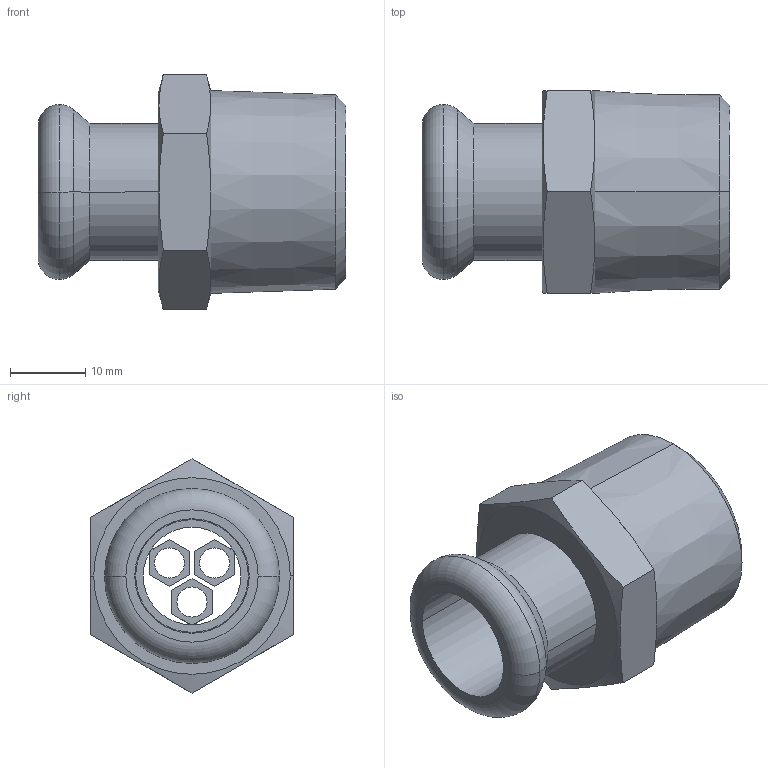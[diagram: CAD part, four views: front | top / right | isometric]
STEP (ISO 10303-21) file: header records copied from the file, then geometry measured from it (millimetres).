
FILE_DESCRIPTION(('OneSpaceDesigner STEP Export'),'2;1');
FILE_NAME('R2705 15xR3-4.stp','2010-06-09T10:27:23',(''),(''),'OneSpace Designer STEP processor for AP214 (Solid Model)','OneSpace Modeling 15.00A 14-Mar-2007 (C) CoCreate Software GmbH','');
FILE_SCHEMA(('AUTOMOTIVE_DESIGN { 1 0 10303 214 1 1 1 1 }'));
Length unit declared in the file: millimetre
Products named in the file (2): R2705_15xR3-4
Assembly tree (1 placements, depth 2):
  R2705_15xR3-4
    R2705_15xR3-4
Bounding box: 41 x 27 x 31.18 mm (x, y, z)
Volume: 9161.6 mm3; surface area: 6880.9 mm2
Topology: 1 solids, 1 shells, 83 faces, 204 edges, 131 vertices
Faces by surface type: plane 40, cylinder 21, cone 16, torus 6
Entity records: 2783 total; most frequent: CARTESIAN_POINT 971, ORIENTED_EDGE 408, DIRECTION 301, EDGE_CURVE 204, VERTEX_POINT 131, VECTOR 103, LINE 103, AXIS2_PLACEMENT_3D 99
